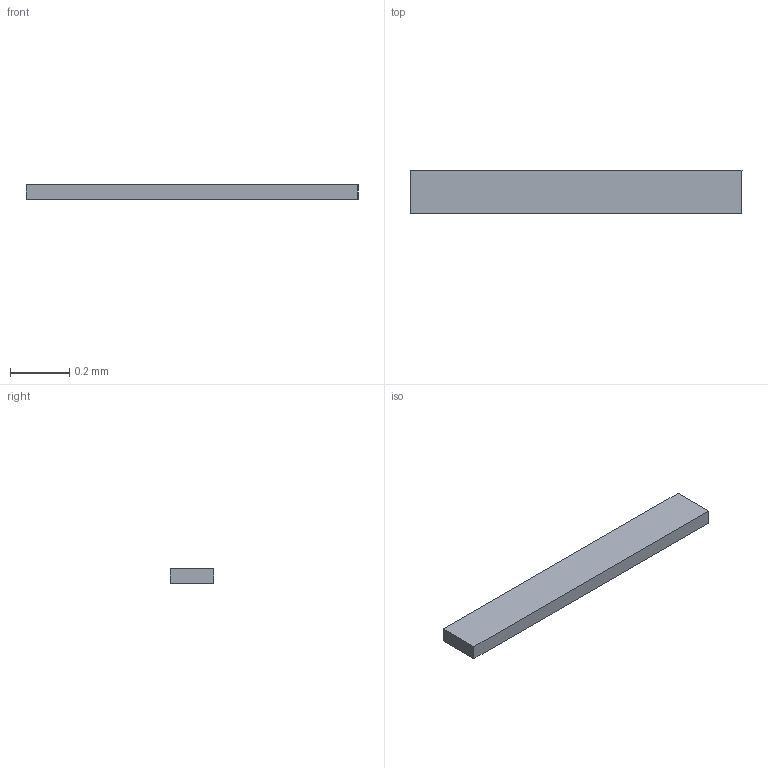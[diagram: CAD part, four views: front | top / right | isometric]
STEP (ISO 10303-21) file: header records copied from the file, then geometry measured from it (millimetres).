
FILE_DESCRIPTION(/* description */ ('STEP AP242 Edition 2','CAx-IF Rec.Pracs.---Representation and Presentation of Product Manufacturing Information (PMI)---4.0---2014-10-13','CAx-IF Rec.Pracs.---3D Tessellated Geometry---0.4---2014-09-14','2;1','CAx-IF Rec.Pracs.---User Defined Attributes---1.5---2016-08-15'),/* implementation_level */ '2;1');
FILE_NAME(/* name */ 'Drone Layout - Surface 302',/* time_stamp */ '2026-10-04T22:22:55Z',/* author */ (''),/* organization */ (''),/* preprocessor_version */ 'ST-DEVELOPER v20',/* originating_system */ 'ONSHAPE BY PTC INC, 1.221',/* authorisation */ ' ');
FILE_SCHEMA (('AP242_MANAGED_MODEL_BASED_3D_ENGINEERING_MIM_LF { 1 0 10303 442 3 1 4 }'));
Length unit declared in the file: metre
Products named in the file (1): Text_ITGMPU
Bounding box: 1.12 x 0.15 x 0.05 mm (x, y, z)
Volume: 0 mm3; surface area: 0.5 mm2
Topology: 1 solids, 1 shells, 6 faces, 12 edges, 8 vertices
Faces by surface type: plane 6
Entity records: 169 total; most frequent: CARTESIAN_POINT 27, DIRECTION 26, ORIENTED_EDGE 24, EDGE_CURVE 12, LINE 12, VECTOR 12, VERTEX_POINT 8, AXIS2_PLACEMENT_3D 7
